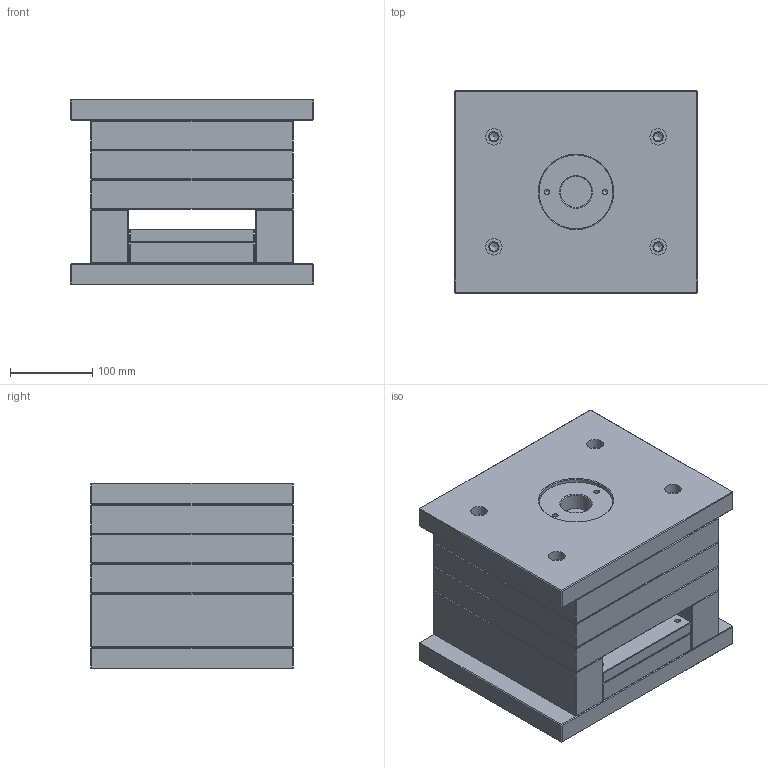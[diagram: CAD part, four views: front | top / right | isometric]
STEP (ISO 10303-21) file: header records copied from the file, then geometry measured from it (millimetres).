
FILE_DESCRIPTION( ( 'Unknown' ), '1' );
FILE_NAME( 'E:/Drawing Files Other/Dave/Microsound/Speaker 51 Diameter/Tooldrawings/Family Mould.stp', 'Unknown', ( 'Unknown' ), ( 'Unknown' ), 'PSStep 15.0.49', 'Unknown', ' ' );
FILE_SCHEMA( ( 'AUTOMOTIVE_DESIGN { 1 0 10303 214 1 1 1 1 }' ) );
Length unit declared in the file: millimetre
Products named in the file (42): Fixed Half; FH Die Plate; Fixed Clamping Plate; Fixed Half Outer; Fixe Half Insert A; Fixed Half Insert B; Moving Half; MH Die Plate; Support Plate; Riser; Moving Clamping Plate; Ejector Bottom Plate; Ejector Top Plate; MH Die Plate Outer; MH Insert; Assem1
Assembly tree (51 placements, depth 3):
  Assem1
    Fixed Half
      FH Die Plate
      FH Die Plate
      FH Die Plate
      FH Die Plate
      FH Die Plate
      FH Die Plate
      FH Die Plate
      FH Die Plate
      FH Die Plate
      FH Die Plate
      FH Die Plate
      FH Die Plate
      FH Die Plate
      FH Die Plate
      FH Die Plate
      FH Die Plate
      FH Die Plate
      FH Die Plate
      FH Die Plate
      Fixed Clamping Plate
      Fixed Half Outer
      Fixe Half Insert A  x4
      Fixe Half Insert A  x4
      Fixed Half Insert B  x4
    Moving Half
      MH Die Plate
      MH Die Plate
      MH Die Plate
      MH Die Plate
      MH Die Plate
      MH Die Plate
      MH Die Plate
      MH Die Plate
      Support Plate
      Riser  x2
      Moving Clamping Plate
      Ejector Bottom Plate
      Ejector Top Plate
      MH Die Plate Outer
      MH Insert
Bounding box: 296 x 246 x 226.16 mm (x, y, z)
Surface area: 1723299.9 mm2
Topology: 48 solids, 56 shells, 3977 faces, 10952 edges, 7180 vertices
Faces by surface type: plane 2661, cylinder 1070, bspline 96, cone 92, sphere 34, torus 24
Full cylindrical faces by diameter (mm): 3.528 x12, 4 x32, 4.032 x24, 4.5 x32, 6 x8, 6.5 x8, 6.552 x6, 6.647 x6, 8.376 x1, 8.5 x4, 9 x16, 10.2 x16, 12.5 x16, 12.902 x4, 13 x4, 14 x4, 15.926 x4, 20 x8, 30 x1, 34 x16, 38 x17, 90 x1
Entity records: 167774 total; most frequent: CARTESIAN_POINT 26873, ORIENTED_EDGE 20164, DIRECTION 19022, EDGE_CURVE 10098, LINE 7084, VECTOR 7084, VERTEX_POINT 6776, STYLED_ITEM 6585
